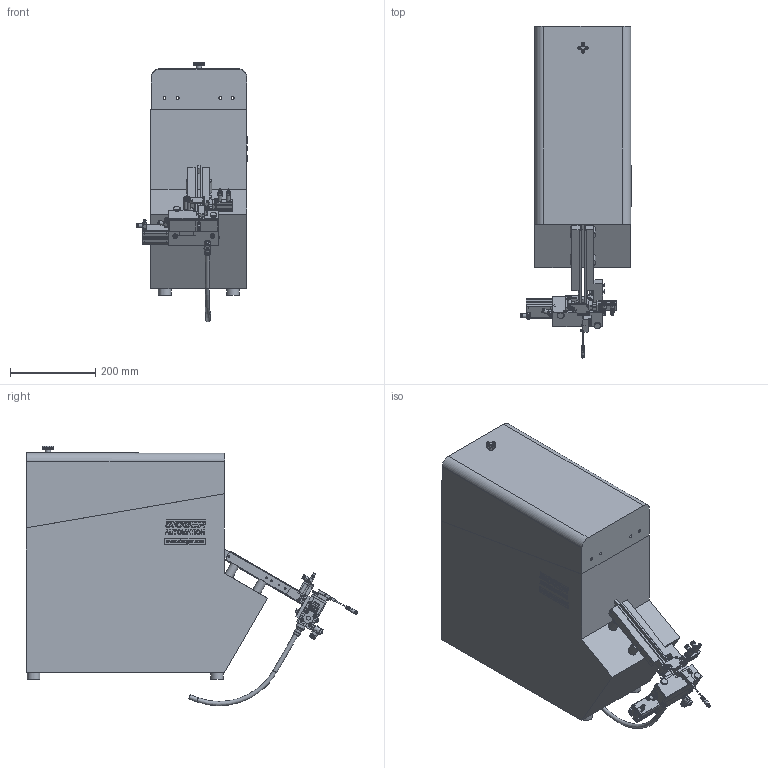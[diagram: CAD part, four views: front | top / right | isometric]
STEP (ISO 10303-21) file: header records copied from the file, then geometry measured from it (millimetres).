
FILE_DESCRIPTION(/* description */ (''),/* implementation_level */ '2;1');
FILE_NAME(/* name */ 'G:\Modelle für Marketing\3Ds Parasolid\Teil 2\3D_Parasolid_automatic_feed_unit_segment_feeder_SGF3_series.x_b.ipt.stp',/* time_stamp */ '2016-07-28T11:56:12+02:00',/* author */ ('Wolf'),/* organization */ (''),/* preprocessor_version */ 'ST-DEVELOPER v15.2',/* originating_system */ 'Autodesk Inventor 2014',/* authorisation */ '');
FILE_SCHEMA (('AUTOMOTIVE_DESIGN { 1 0 10303 214 3 1 1 }'));
Products named in the file (1): 3D_Parasolid_automatic_feed_unit_segment_feeder_SGF3_series.x_b
Bounding box: 258.5 x 778.18 x 608.71 mm (x, y, z)
Volume: 44660880 mm3; surface area: 1484737.4 mm2
Topology: 8 solids, 72 shells, 2914 faces, 7427 edges, 4848 vertices
Faces by surface type: plane 1715, cylinder 510, bspline 375, cone 239, torus 55, sphere 20
Full cylindrical faces by diameter (mm): 1 x4, 1.8 x2, 2 x9, 2.459 x5, 2.5 x14, 2.54 x1, 2.8 x2, 3 x11, 3.05 x1, 3.1 x5, 3.242 x16, 3.382 x2, 3.688 x3, 3.75 x2, 3.8 x2, 3.99 x4, 4 x35, 4.019 x6, 4.03 x6, 4.1 x2, 4.134 x9, 4.2 x2, 4.3 x3, 4.4 x8, 4.6 x3, 4.773 x1, 5 x12, 5.1 x3, 5.3 x2, 5.5 x7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
Entity records: 90001 total; most frequent: CARTESIAN_POINT 22581, ORIENTED_EDGE 13208, DIRECTION 12162, EDGE_CURVE 6604, VERTEX_POINT 4568, AXIS2_PLACEMENT_3D 4107, LINE 3948, VECTOR 3948
